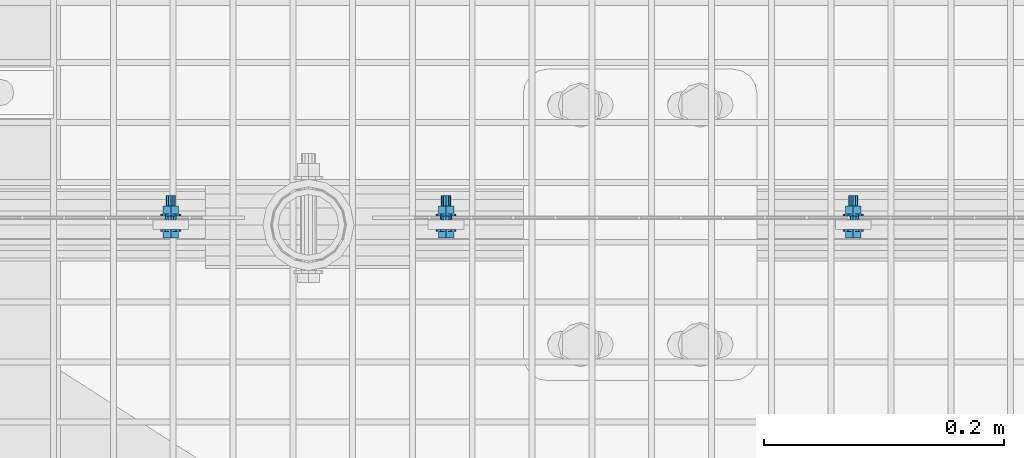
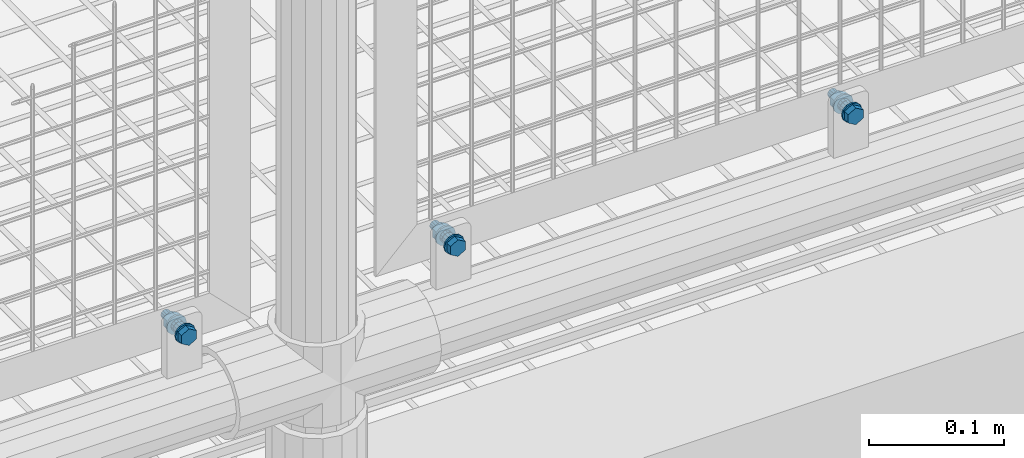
# One storey, part 92 of 1530: 3 mechanical fasteners.
"""IFC2X3 building model written with IfcOpenShell, lengths in millimetres."""

import ifcopenshell
import ifcopenshell.guid

model = None  # the IFC model being written
_history = None  # IfcOwnerHistory: only IFC2X3 demands one
_inside = {}  # id of a spatial element -> (the spatial element, [elements in it])
_under = {}  # id of a project, library or spatial element -> (it, [spatial elements below it])
_declared = {}  # id of a project -> (the project, [libraries it declares])
_typed = {}  # id of a type object -> (the type object, [elements of that type])
_made_of = {}  # id of a material, layer set ... -> (it, [elements and type objects made of it])


def new_model(schema):
    """Start an empty IFC model of exactly this schema.

    Asked for "IFC4X3", IfcOpenShell would pick the latest addendum, in which some entities
    have other attributes; the version numbers below select the first issue.
    IFC2X3 requires an IfcOwnerHistory on every rooted entity: one is made here for all.
    """
    global model, _history
    if schema == "IFC4X3":
        model = ifcopenshell.file(schema_version=(4, 3, 0, 0))
    else:
        model = ifcopenshell.file(schema=schema)
    _inside.clear()
    _under.clear()
    _declared.clear()
    _typed.clear()
    _made_of.clear()
    _history = None
    if model.schema == "IFC2X3":
        org = make("IfcOrganization", Name="unknown")
        user = make(
            "IfcPersonAndOrganization",
            ThePerson=make("IfcPerson", FamilyName="unknown"),
            TheOrganization=org,
        )
        app = make(
            "IfcApplication",
            ApplicationDeveloper=org,
            Version="unknown",
            ApplicationFullName="unknown",
            ApplicationIdentifier="unknown",
        )
        _history = make(
            "IfcOwnerHistory",
            OwningUser=user,
            OwningApplication=app,
            ChangeAction="ADDED",
            CreationDate=0,
        )
    return model


def make(cls, **values):
    """One entity of the class cls with the attributes given. An attribute that is None is left unset."""
    return model.create_entity(
        cls, **{name: value for name, value in values.items() if value is not None}
    )


def rooted(cls, **values):
    """An entity with a GlobalId (a new one), such as an element, a storey or a relation."""
    return make(cls, GlobalId=ifcopenshell.guid.new(), OwnerHistory=_history, **values)


def si_unit(unit_type, name, prefix=None):
    """IfcSIUnit, for example si_unit("LENGTHUNIT", "METRE", prefix="MILLI")."""
    return make("IfcSIUnit", UnitType=unit_type, Prefix=prefix, Name=name)


def assignment(units):
    """IfcUnitAssignment: the units of a project."""
    return None if units is None else make("IfcUnitAssignment", Units=units)


def point(xyz):
    """IfcCartesianPoint."""
    return None if xyz is None else make("IfcCartesianPoint", Coordinates=xyz)


def direction(xyz):
    """IfcDirection."""
    return None if xyz is None else make("IfcDirection", DirectionRatios=xyz)


def frame(location, z_axis=None, x_axis=None):
    """IfcAxis2Placement3D, a coordinate frame: its origin and axes. An axis left out is left unset."""
    return make(
        "IfcAxis2Placement3D",
        Location=point(location),
        Axis=direction(z_axis),
        RefDirection=direction(x_axis),
    )


def origin_with_axes():
    """The frame at (0, 0, 0) with the z axis (0, 0, 1) and the x axis (1, 0, 0) written out."""
    return frame((0.0, 0.0, 0.0), z_axis=(0.0, 0.0, 1.0), x_axis=(1.0, 0.0, 0.0))


def place(relative_to, where):
    """IfcLocalPlacement: puts the frame where relative to a parent placement (None: the world)."""
    return make(
        "IfcLocalPlacement", PlacementRelTo=relative_to, RelativePlacement=where
    )


def context(
    kind, dimensions, precision=None, world=None, true_north=None, identifier=None
):
    """IfcGeometricRepresentationContext, for example the 3D "Model" context."""
    return make(
        "IfcGeometricRepresentationContext",
        ContextIdentifier=identifier,
        ContextType=kind,
        CoordinateSpaceDimension=dimensions,
        Precision=precision,
        WorldCoordinateSystem=world,
        TrueNorth=true_north,
    )


def subcontext(parent, identifier, kind, view, scale=None):
    """IfcGeometricRepresentationSubContext, for example "Body" below "Model"."""
    return make(
        "IfcGeometricRepresentationSubContext",
        ContextIdentifier=identifier,
        ContextType=kind,
        ParentContext=parent,
        TargetScale=scale,
        TargetView=view,
    )


def project(units=None, contexts=None):
    """IfcProject with its units and contexts."""
    return rooted(
        "IfcProject",
        Name="project",
        RepresentationContexts=contexts,
        UnitsInContext=assignment(units),
    )


def spatial(cls, under=None, at=None, **own):
    """A site, building, storey or space (cls), placed at a placement, below another one or the project."""
    s = rooted(cls, ObjectPlacement=at, **own)
    if under is not None:
        _under.setdefault(under.id(), (under, []))[1].append(s)
    return s


def faces_of(points, faces, orient=None, outer=None):
    """IfcFace entities. A face is a list of loops; a loop is a list of indices into points, from 0.

    orient and outer hold one flag for each loop. By default every Orientation is true, the
    first loop of a face is its IfcFaceOuterBound and the others are IfcFaceBound.
    """
    made = []
    for i, loops in enumerate(faces):
        bounds = []
        for j, loop in enumerate(loops):
            is_outer = j == 0 if outer is None else outer[i][j]
            bounds.append(
                make(
                    "IfcFaceOuterBound" if is_outer else "IfcFaceBound",
                    Bound=make("IfcPolyLoop", Polygon=[points[k] for k in loop]),
                    Orientation=True if orient is None else orient[i][j],
                )
            )
        made.append(make("IfcFace", Bounds=bounds))
    return made


def faceted_brep(points, faces, orient=None, outer=None, voids=None):
    """IfcFacetedBrep: a solid bounded by flat faces; with voids (closed shells), ...WithVoids."""
    shared = [point(p) for p in points]
    hull = make("IfcClosedShell", CfsFaces=faces_of(shared, faces, orient, outer))
    if voids is None:
        return make("IfcFacetedBrep", Outer=hull)
    return make(
        "IfcFacetedBrepWithVoids",
        Outer=hull,
        Voids=[
            make(cls, CfsFaces=faces_of(shared, fs, o, b)) for cls, fs, o, b in voids
        ],
    )


def shape(context_of_items, identifier, shape_type, items):
    """IfcShapeRepresentation: the items that make up one representation, for example the "Body"."""
    return make(
        "IfcShapeRepresentation",
        ContextOfItems=context_of_items,
        RepresentationIdentifier=identifier,
        RepresentationType=shape_type,
        Items=items,
    )


def source(mapping_origin, context_of_items, identifier, shape_type, items):
    """IfcRepresentationMap: a shape defined once, which mapped items show again and again."""
    return make(
        "IfcRepresentationMap",
        MappingOrigin=mapping_origin,
        MappedRepresentation=shape(context_of_items, identifier, shape_type, items),
    )


def transform(
    local_origin,
    x_axis=None,
    y_axis=None,
    z_axis=None,
    scale=None,
    scale2=None,
    scale3=None,
    uniform=True,
):
    """IfcCartesianTransformationOperator3D, or its non-uniform kind. x_axis, y_axis, z_axis: its Axis1, 2, 3."""
    if uniform:
        return make(
            "IfcCartesianTransformationOperator3D",
            Axis1=direction(x_axis),
            Axis2=direction(y_axis),
            LocalOrigin=point(local_origin),
            Scale=scale,
            Axis3=direction(z_axis),
        )
    return make(
        "IfcCartesianTransformationOperator3DnonUniform",
        Axis1=direction(x_axis),
        Axis2=direction(y_axis),
        LocalOrigin=point(local_origin),
        Scale=scale,
        Axis3=direction(z_axis),
        Scale2=scale2,
        Scale3=scale3,
    )


def mapped(mapping_source, mapping_target):
    """IfcMappedItem: shows the shape of a source again, moved by a transform."""
    return make(
        "IfcMappedItem", MappingSource=mapping_source, MappingTarget=mapping_target
    )


def material(Name=None, Category=None):
    """IfcMaterial."""
    return make("IfcMaterial", Name=Name, Category=Category)


def made_of(thing, what):
    """Note that an element or type object is made of a material, layer set ...; save() writes the relation."""
    if what is not None:
        _made_of.setdefault(what.id(), (what, []))[1].append(thing)
    return thing


def type_object(cls, material=None, **own):
    """A type object (cls), such as IfcWallType, which elements share."""
    return made_of(rooted(cls, **own), material)


def element(
    cls,
    number,
    at=None,
    inside=None,
    cuts=None,
    type_object=None,
    material=None,
    context=None,
    identifier="Body",
    shape_type=None,
    held_by="IfcProductDefinitionShape",
    body=None,
    shapes=None,
    **own,
):
    """One element of the class cls, such as IfcWall. Its Tag is "e" and its number.

    at: its placement. inside: the storey or other place that contains it. cuts: it is an
    opening in that element (IfcRelVoidsElement). A single representation is given by context,
    identifier, shape_type and body (its items); several are given by shapes. held_by: the class
    of the entity that holds the representations. save() writes the other relations.
    """
    e = rooted(cls, Tag="e%d" % number, ObjectPlacement=at, **own)
    if body is not None:
        shapes = [shape(context, identifier, shape_type, body)]
    if shapes is not None:
        e.Representation = make(held_by, Representations=shapes)
    if inside is not None:
        _inside.setdefault(inside.id(), (inside, []))[1].append(e)
    if cuts is not None:
        rooted(
            "IfcRelVoidsElement", RelatingBuildingElement=cuts, RelatedOpeningElement=e
        )
    if type_object is not None:
        _typed.setdefault(type_object.id(), (type_object, []))[1].append(e)
    return made_of(e, material)


def aggregate(whole, parts):
    """IfcRelAggregates: a whole, such as a stair, and the parts it consists of."""
    return rooted("IfcRelAggregates", RelatingObject=whole, RelatedObjects=parts)


def save(model, path):
    """Write the relations noted so far, then the file.

    IfcRelAggregates (storeys below a building ...), IfcRelContainedInSpatialStructure (elements
    in a storey), IfcRelDefinesByType, IfcRelAssociatesMaterial and IfcRelDeclares: one each for
    every whole, place, type object, material and project.
    """
    for whole, parts in _under.values():
        aggregate(whole, parts)
    for where, things in _inside.values():
        rooted(
            "IfcRelContainedInSpatialStructure",
            RelatedElements=things,
            RelatingStructure=where,
        )
    for kind, things in _typed.values():
        rooted("IfcRelDefinesByType", RelatedObjects=things, RelatingType=kind)
    for what, things in _made_of.values():
        rooted("IfcRelAssociatesMaterial", RelatedObjects=things, RelatingMaterial=what)
    for by, libraries in _declared.values():
        rooted("IfcRelDeclares", RelatingContext=by, RelatedDefinitions=libraries)
    model.write(path)


model = new_model("IFC2X3")

# Units and contexts
model_context = context("Model", 3, precision=1e-05, world=origin_with_axes())
body_context = subcontext(model_context, "Body", "Model", "MODEL_VIEW")
ifc_project = project(units=[si_unit("LENGTHUNIT", "METRE", prefix="MILLI"), si_unit("AREAUNIT", "SQUARE_METRE"), si_unit("VOLUMEUNIT", "CUBIC_METRE"), si_unit("MASSUNIT", "GRAM", prefix="KILO"), si_unit("TIMEUNIT", "SECOND"), si_unit("PLANEANGLEUNIT", "RADIAN"), si_unit("SOLIDANGLEUNIT", "STERADIAN"), si_unit("THERMODYNAMICTEMPERATUREUNIT", "DEGREE_CELSIUS"), si_unit("LUMINOUSINTENSITYUNIT", "LUMEN")], contexts=[model_context])

# Site, building, storey
site_placement = place(None, origin_with_axes())
site = spatial("IfcSite", under=ifc_project, at=site_placement, Name="Brattvåg", CompositionType="ELEMENT")
building_placement = place(site_placement, origin_with_axes())
building = spatial("IfcBuilding", under=site, at=building_placement, Name="Undefined", CompositionType="ELEMENT")
storey_placement = place(building_placement, origin_with_axes())
storey = spatial("IfcBuildingStorey", under=building, at=storey_placement, Name="Undefined", CompositionType="ELEMENT", Elevation=0.0)

# Mechanical fasteners
ifc_material = material(Name="8")
mechanical_fastener_type = type_object("IfcMechanicalFastenerType", Name="Bolt assembly")
shared_shape_1 = source(origin_with_axes(), body_context, "Body", "Brep", [
    faceted_brep([(7.50555349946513, -6.899000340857, 0.0), (3.75277674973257, -6.899000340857, 6.5), (-3.75277674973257, -6.899000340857, 6.5), (-7.50555349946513, -6.899000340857, 9.19165206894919e-16), (-3.75277674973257, -6.899000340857, -6.5), (3.75277674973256, -6.899000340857, -6.5), (3.75277674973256, -1.59900015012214, -6.5), (-3.75277674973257, -1.59900015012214, -6.5), (-7.50555349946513, -1.59900015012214, 9.19165206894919e-16), (-3.75277674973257, -1.59900015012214, 6.5), (3.75277674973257, -1.59900015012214, 6.5), (7.50555349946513, -1.59900015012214, 0.0), (4.0, -1.59900015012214, 0.0), (3.46410161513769, -1.59900015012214, 2.00000000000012), (1.99999999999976, -1.59900015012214, 3.46410161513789), (-4.14534392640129e-13, -1.59900015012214, 4.0), (-2.00000000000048, -1.59900015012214, 3.46410161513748), (-3.4641016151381, -1.59900015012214, 1.9999999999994), (-4.0, -1.59900015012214, -8.29068785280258e-13), (-3.46410161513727, -1.59900015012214, -2.00000000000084), (-1.99999999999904, -1.59900015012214, -3.46410161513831), (1.23916228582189e-12, -1.59900015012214, -4.0), (2.00000000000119, -1.59900015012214, -3.46410161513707), (3.46410161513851, -1.59900015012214, -1.99999999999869), (3.46410161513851, 28.4009998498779, -1.99999999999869), (2.00000000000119, 28.4009998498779, -3.46410161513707), (1.23916228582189e-12, 28.4009998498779, -4.0), (-1.99999999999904, 28.4009998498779, -3.46410161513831), (-3.46410161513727, 28.4009998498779, -2.00000000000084), (-4.0, 28.4009998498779, -8.29068785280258e-13), (-3.4641016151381, 28.4009998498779, 1.9999999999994), (-2.00000000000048, 28.4009998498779, 3.46410161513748), (-4.14534392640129e-13, 28.4009998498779, 4.0), (1.99999999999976, 28.4009998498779, 3.46410161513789), (3.46410161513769, 28.4009998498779, 2.00000000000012), (4.0, 28.4009998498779, 0.0), (8.5, -1.59900015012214, 0.0), (7.36121593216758, -1.59900015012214, 4.25000000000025), (4.24999999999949, -1.59900015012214, 7.36121593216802), (-8.80885584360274e-13, -1.59900015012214, 8.5), (-4.25000000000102, -1.59900015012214, 7.36121593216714), (-7.36121593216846, -1.59900015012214, 4.24999999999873), (-8.5, -1.59900015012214, -1.76177116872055e-12), (-7.3612159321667, -1.59900015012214, -4.25000000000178), (-4.24999999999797, -1.59900015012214, -7.3612159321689), (2.63321985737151e-12, -1.59900015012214, -8.5), (4.25000000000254, -1.59900015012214, -7.36121593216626), (7.36121593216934, -1.59900015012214, -4.24999999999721), (7.36121593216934, 0.000999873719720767, -4.24999999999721), (4.25000000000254, 0.000999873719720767, -7.36121593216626), (2.63321985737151e-12, 0.000999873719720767, -8.5), (-4.24999999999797, 0.000999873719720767, -7.3612159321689), (-7.3612159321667, 0.000999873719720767, -4.25000000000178), (-8.5, 0.000999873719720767, -1.76177116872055e-12), (-7.36121593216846, 0.000999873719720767, 4.24999999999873), (-4.25000000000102, 0.000999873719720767, 7.36121593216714), (-8.80885584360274e-13, 0.000999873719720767, 8.5), (4.24999999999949, 0.000999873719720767, 7.36121593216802), (7.36121593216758, 0.000999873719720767, 4.25000000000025), (8.5, 0.000999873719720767, 0.0), (8.5, 11.5044159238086, 0.0), (7.36121593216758, 11.5044159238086, 4.25000000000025), (4.24999999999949, 11.5044159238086, 7.36121593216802), (-8.80885584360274e-13, 11.5044159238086, 8.5), (-4.25000000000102, 11.5044159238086, 7.36121593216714), (-7.36121593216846, 11.5044159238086, 4.24999999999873), (-8.5, 11.5044159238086, -1.76177116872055e-12), (-7.3612159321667, 11.5044159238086, -4.25000000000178), (-4.24999999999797, 11.5044159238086, -7.3612159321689), (2.63321985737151e-12, 11.5044159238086, -8.5), (4.25000000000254, 11.5044159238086, -7.36121593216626), (7.36121593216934, 11.5044159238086, -4.24999999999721), (7.36121593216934, 13.1044159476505, -4.24999999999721), (4.25000000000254, 13.1044159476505, -7.36121593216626), (2.63321985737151e-12, 13.1044159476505, -8.5), (-4.24999999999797, 13.1044159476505, -7.3612159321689), (-7.3612159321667, 13.1044159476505, -4.25000000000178), (-8.5, 13.1044159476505, -1.76177116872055e-12), (-7.36121593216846, 13.1044159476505, 4.24999999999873), (-4.25000000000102, 13.1044159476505, 7.36121593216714), (-8.80885584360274e-13, 13.1044159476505, 8.5), (4.24999999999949, 13.1044159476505, 7.36121593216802), (7.36121593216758, 13.1044159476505, 4.25000000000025), (8.5, 13.1044159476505, 0.0), (7.50555349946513, 13.1044159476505, 0.0), (3.75277674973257, 13.1044159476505, 6.5), (-3.75277674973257, 13.1044159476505, 6.5), (-7.50555349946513, 13.1044159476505, 9.19165206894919e-16), (-3.75277674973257, 13.1044159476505, -6.5), (3.75277674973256, 13.1044159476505, -6.5), (3.75277674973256, 19.9044161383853, -6.5), (-3.75277674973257, 19.9044161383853, -6.5), (-7.50555349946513, 19.9044161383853, 9.19165206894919e-16), (-3.75277674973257, 19.9044161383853, 6.5), (3.75277674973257, 19.9044161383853, 6.5), (7.50555349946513, 19.9044161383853, 0.0)], [[[0, 1, 2, 3, 4, 5]], [[6, 7, 8, 9, 10, 11]], [[0, 11, 10, 1]], [[1, 10, 9, 2]], [[2, 9, 8, 3]], [[3, 8, 7, 4]], [[4, 7, 6, 5]], [[5, 6, 11, 0]], [[12, 13, 14, 15, 16, 17, 18, 19, 20, 21, 22, 23]], [[24, 25, 26, 27, 28, 29, 30, 31, 32, 33, 34, 35]], [[12, 35, 34, 13]], [[13, 34, 33, 14]], [[14, 33, 32, 15]], [[15, 32, 31, 16]], [[16, 31, 30, 17]], [[17, 30, 29, 18]], [[18, 29, 28, 19]], [[19, 28, 27, 20]], [[20, 27, 26, 21]], [[21, 26, 25, 22]], [[22, 25, 24, 23]], [[23, 24, 35, 12]], [[36, 37, 38, 39, 40, 41, 42, 43, 44, 45, 46, 47]], [[48, 49, 50, 51, 52, 53, 54, 55, 56, 57, 58, 59]], [[36, 59, 58, 37]], [[37, 58, 57, 38]], [[38, 57, 56, 39]], [[39, 56, 55, 40]], [[40, 55, 54, 41]], [[41, 54, 53, 42]], [[42, 53, 52, 43]], [[43, 52, 51, 44]], [[44, 51, 50, 45]], [[45, 50, 49, 46]], [[46, 49, 48, 47]], [[47, 48, 59, 36]], [[60, 61, 62, 63, 64, 65, 66, 67, 68, 69, 70, 71]], [[72, 73, 74, 75, 76, 77, 78, 79, 80, 81, 82, 83]], [[60, 83, 82, 61]], [[61, 82, 81, 62]], [[62, 81, 80, 63]], [[63, 80, 79, 64]], [[64, 79, 78, 65]], [[65, 78, 77, 66]], [[66, 77, 76, 67]], [[67, 76, 75, 68]], [[68, 75, 74, 69]], [[69, 74, 73, 70]], [[70, 73, 72, 71]], [[71, 72, 83, 60]], [[84, 85, 86, 87, 88, 89]], [[90, 91, 92, 93, 94, 95]], [[84, 95, 94, 85]], [[85, 94, 93, 86]], [[86, 93, 92, 87]], [[87, 92, 91, 88]], [[88, 91, 90, 89]], [[89, 90, 95, 84]]]),
    faceted_brep([(5.0, 0.100999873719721, 0.0), (4.33012701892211, 0.100999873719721, 2.50000000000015), (2.4999999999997, 0.100999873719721, 4.33012701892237), (-5.18167990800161e-13, 0.100999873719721, 5.0), (-2.5000000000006, 0.100999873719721, 4.33012701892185), (-4.33012701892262, 0.100999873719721, 2.49999999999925), (-5.0, 0.100999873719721, -1.03633598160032e-12), (-4.33012701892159, 0.100999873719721, -2.50000000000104), (-2.49999999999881, 0.100999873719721, -4.33012701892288), (1.54895285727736e-12, 0.100999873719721, -5.0), (2.50000000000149, 0.100999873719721, -4.33012701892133), (4.33012701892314, 0.100999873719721, -2.49999999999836), (4.33012701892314, 8.10099988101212, -2.49999999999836), (2.50000000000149, 8.10099988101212, -4.33012701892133), (1.54895285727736e-12, 8.10099988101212, -5.0), (-2.49999999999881, 8.10099988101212, -4.33012701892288), (-4.33012701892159, 8.10099988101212, -2.50000000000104), (-5.0, 8.10099988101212, -1.03633598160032e-12), (-4.33012701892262, 8.10099988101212, 2.49999999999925), (-2.5000000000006, 8.10099988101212, 4.33012701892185), (-5.18167990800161e-13, 8.10099988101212, 5.0), (2.4999999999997, 8.10099988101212, 4.33012701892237), (4.33012701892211, 8.10099988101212, 2.50000000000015), (5.0, 8.10099988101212, 0.0), (5.0, 8.40441592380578, 0.0), (4.33012701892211, 8.40441592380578, 2.50000000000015), (2.4999999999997, 8.40441592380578, 4.33012701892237), (-5.18167990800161e-13, 8.40441592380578, 5.0), (-2.5000000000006, 8.40441592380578, 4.33012701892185), (-4.33012701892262, 8.40441592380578, 2.49999999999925), (-5.0, 8.40441592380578, -1.03633598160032e-12), (-4.33012701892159, 8.40441592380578, -2.50000000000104), (-2.49999999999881, 8.40441592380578, -4.33012701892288), (1.54895285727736e-12, 8.40441592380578, -5.0), (2.50000000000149, 8.40441592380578, -4.33012701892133), (4.33012701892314, 8.40441592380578, -2.49999999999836), (4.33012701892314, 11.5044159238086, -2.49999999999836), (2.50000000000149, 11.5044159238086, -4.33012701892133), (1.54895285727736e-12, 11.5044159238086, -5.0), (-2.49999999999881, 11.5044159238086, -4.33012701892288), (-4.33012701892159, 11.5044159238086, -2.50000000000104), (-5.0, 11.5044159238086, -1.03633598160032e-12), (-4.33012701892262, 11.5044159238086, 2.49999999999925), (-2.5000000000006, 11.5044159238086, 4.33012701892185), (-5.18167990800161e-13, 11.5044159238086, 5.0), (2.4999999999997, 11.5044159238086, 4.33012701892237), (4.33012701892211, 11.5044159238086, 2.50000000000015), (5.0, 11.5044159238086, 0.0)], [[[0, 1, 2, 3, 4, 5, 6, 7, 8, 9, 10, 11]], [[12, 13, 14, 15, 16, 17, 18, 19, 20, 21, 22, 23]], [[0, 23, 22, 1]], [[1, 22, 21, 2]], [[2, 21, 20, 3]], [[3, 20, 19, 4]], [[4, 19, 18, 5]], [[5, 18, 17, 6]], [[6, 17, 16, 7]], [[7, 16, 15, 8]], [[8, 15, 14, 9]], [[9, 14, 13, 10]], [[10, 13, 12, 11]], [[11, 12, 23, 0]], [[24, 25, 26, 27, 28, 29, 30, 31, 32, 33, 34, 35]], [[36, 37, 38, 39, 40, 41, 42, 43, 44, 45, 46, 47]], [[24, 47, 46, 25]], [[25, 46, 45, 26]], [[26, 45, 44, 27]], [[27, 44, 43, 28]], [[28, 43, 42, 29]], [[29, 42, 41, 30]], [[30, 41, 40, 31]], [[31, 40, 39, 32]], [[32, 39, 38, 33]], [[33, 38, 37, 34]], [[34, 37, 36, 35]], [[35, 36, 47, 24]]]),
])
mechanical_fastener_1_placement = place(storey_placement, frame((10335.8506088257, 7660.49843978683, 352.299672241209), z_axis=(-1.0, 1.99999855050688e-09, 0.0), x_axis=(0.0, 0.0, 1.0)))
element("IfcMechanicalFastener", 1, at=mechanical_fastener_1_placement, inside=storey, type_object=mechanical_fastener_type, material=ifc_material, Name="Bolt assembly", NominalDiameter=8.0, NominalLength=30.0, context=body_context, shape_type="MappedRepresentation", body=[
    mapped(shared_shape_1, transform((0.0, 0.0, 0.0))),
])
shared_shape_2 = source(origin_with_axes(), body_context, "Body", "Brep", [
    faceted_brep([(7.50555349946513, -6.899000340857, 0.0), (3.75277674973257, -6.899000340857, 6.5), (-3.75277674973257, -6.899000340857, 6.5), (-7.50555349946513, -6.899000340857, 9.19165206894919e-16), (-3.75277674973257, -6.899000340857, -6.5), (3.75277674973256, -6.899000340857, -6.5), (3.75277674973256, -1.59900015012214, -6.5), (-3.75277674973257, -1.59900015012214, -6.5), (-7.50555349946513, -1.59900015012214, 9.19165206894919e-16), (-3.75277674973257, -1.59900015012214, 6.5), (3.75277674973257, -1.59900015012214, 6.5), (7.50555349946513, -1.59900015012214, 0.0), (4.0, -1.59900015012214, 0.0), (3.46410161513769, -1.59900015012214, 2.00000000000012), (1.99999999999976, -1.59900015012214, 3.46410161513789), (-4.14534392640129e-13, -1.59900015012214, 4.0), (-2.00000000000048, -1.59900015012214, 3.46410161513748), (-3.4641016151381, -1.59900015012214, 1.9999999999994), (-4.0, -1.59900015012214, -8.29068785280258e-13), (-3.46410161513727, -1.59900015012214, -2.00000000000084), (-1.99999999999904, -1.59900015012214, -3.46410161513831), (1.23916228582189e-12, -1.59900015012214, -4.0), (2.00000000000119, -1.59900015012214, -3.46410161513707), (3.46410161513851, -1.59900015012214, -1.99999999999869), (3.46410161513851, 28.4009998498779, -1.99999999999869), (2.00000000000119, 28.4009998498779, -3.46410161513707), (1.23916228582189e-12, 28.4009998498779, -4.0), (-1.99999999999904, 28.4009998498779, -3.46410161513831), (-3.46410161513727, 28.4009998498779, -2.00000000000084), (-4.0, 28.4009998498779, -8.29068785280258e-13), (-3.4641016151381, 28.4009998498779, 1.9999999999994), (-2.00000000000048, 28.4009998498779, 3.46410161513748), (-4.14534392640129e-13, 28.4009998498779, 4.0), (1.99999999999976, 28.4009998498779, 3.46410161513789), (3.46410161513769, 28.4009998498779, 2.00000000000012), (4.0, 28.4009998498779, 0.0), (8.5, -1.59900015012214, 0.0), (7.36121593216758, -1.59900015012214, 4.25000000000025), (4.24999999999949, -1.59900015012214, 7.36121593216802), (-8.80885584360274e-13, -1.59900015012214, 8.5), (-4.25000000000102, -1.59900015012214, 7.36121593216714), (-7.36121593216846, -1.59900015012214, 4.24999999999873), (-8.5, -1.59900015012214, -1.76177116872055e-12), (-7.3612159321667, -1.59900015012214, -4.25000000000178), (-4.24999999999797, -1.59900015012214, -7.3612159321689), (2.63321985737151e-12, -1.59900015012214, -8.5), (4.25000000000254, -1.59900015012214, -7.36121593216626), (7.36121593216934, -1.59900015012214, -4.24999999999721), (7.36121593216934, 0.000999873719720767, -4.24999999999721), (4.25000000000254, 0.000999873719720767, -7.36121593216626), (2.63321985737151e-12, 0.000999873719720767, -8.5), (-4.24999999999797, 0.000999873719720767, -7.3612159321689), (-7.3612159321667, 0.000999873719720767, -4.25000000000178), (-8.5, 0.000999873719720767, -1.76177116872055e-12), (-7.36121593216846, 0.000999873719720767, 4.24999999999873), (-4.25000000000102, 0.000999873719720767, 7.36121593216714), (-8.80885584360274e-13, 0.000999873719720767, 8.5), (4.24999999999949, 0.000999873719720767, 7.36121593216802), (7.36121593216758, 0.000999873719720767, 4.25000000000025), (8.5, 0.000999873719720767, 0.0), (8.5, 11.5039814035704, 0.0), (7.36121593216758, 11.5039814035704, 4.25000000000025), (4.24999999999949, 11.5039814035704, 7.36121593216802), (-8.80885584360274e-13, 11.5039814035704, 8.5), (-4.25000000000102, 11.5039814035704, 7.36121593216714), (-7.36121593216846, 11.5039814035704, 4.24999999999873), (-8.5, 11.5039814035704, -1.76177116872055e-12), (-7.3612159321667, 11.5039814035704, -4.25000000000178), (-4.24999999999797, 11.5039814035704, -7.3612159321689), (2.63321985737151e-12, 11.5039814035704, -8.5), (4.25000000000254, 11.5039814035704, -7.36121593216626), (7.36121593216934, 11.5039814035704, -4.24999999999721), (7.36121593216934, 13.1039814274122, -4.24999999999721), (4.25000000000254, 13.1039814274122, -7.36121593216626), (2.63321985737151e-12, 13.1039814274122, -8.5), (-4.24999999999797, 13.1039814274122, -7.3612159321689), (-7.3612159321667, 13.1039814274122, -4.25000000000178), (-8.5, 13.1039814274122, -1.76177116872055e-12), (-7.36121593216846, 13.1039814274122, 4.24999999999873), (-4.25000000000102, 13.1039814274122, 7.36121593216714), (-8.80885584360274e-13, 13.1039814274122, 8.5), (4.24999999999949, 13.1039814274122, 7.36121593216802), (7.36121593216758, 13.1039814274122, 4.25000000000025), (8.5, 13.1039814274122, 0.0), (7.50555349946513, 13.1039814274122, 0.0), (3.75277674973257, 13.1039814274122, 6.5), (-3.75277674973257, 13.1039814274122, 6.5), (-7.50555349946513, 13.1039814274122, 9.19165206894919e-16), (-3.75277674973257, 13.1039814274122, -6.5), (3.75277674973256, 13.1039814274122, -6.5), (3.75277674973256, 19.9039816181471, -6.5), (-3.75277674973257, 19.9039816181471, -6.5), (-7.50555349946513, 19.9039816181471, 9.19165206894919e-16), (-3.75277674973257, 19.9039816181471, 6.5), (3.75277674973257, 19.9039816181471, 6.5), (7.50555349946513, 19.9039816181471, 0.0)], [[[0, 1, 2, 3, 4, 5]], [[6, 7, 8, 9, 10, 11]], [[0, 11, 10, 1]], [[1, 10, 9, 2]], [[2, 9, 8, 3]], [[3, 8, 7, 4]], [[4, 7, 6, 5]], [[5, 6, 11, 0]], [[12, 13, 14, 15, 16, 17, 18, 19, 20, 21, 22, 23]], [[24, 25, 26, 27, 28, 29, 30, 31, 32, 33, 34, 35]], [[12, 35, 34, 13]], [[13, 34, 33, 14]], [[14, 33, 32, 15]], [[15, 32, 31, 16]], [[16, 31, 30, 17]], [[17, 30, 29, 18]], [[18, 29, 28, 19]], [[19, 28, 27, 20]], [[20, 27, 26, 21]], [[21, 26, 25, 22]], [[22, 25, 24, 23]], [[23, 24, 35, 12]], [[36, 37, 38, 39, 40, 41, 42, 43, 44, 45, 46, 47]], [[48, 49, 50, 51, 52, 53, 54, 55, 56, 57, 58, 59]], [[36, 59, 58, 37]], [[37, 58, 57, 38]], [[38, 57, 56, 39]], [[39, 56, 55, 40]], [[40, 55, 54, 41]], [[41, 54, 53, 42]], [[42, 53, 52, 43]], [[43, 52, 51, 44]], [[44, 51, 50, 45]], [[45, 50, 49, 46]], [[46, 49, 48, 47]], [[47, 48, 59, 36]], [[60, 61, 62, 63, 64, 65, 66, 67, 68, 69, 70, 71]], [[72, 73, 74, 75, 76, 77, 78, 79, 80, 81, 82, 83]], [[60, 83, 82, 61]], [[61, 82, 81, 62]], [[62, 81, 80, 63]], [[63, 80, 79, 64]], [[64, 79, 78, 65]], [[65, 78, 77, 66]], [[66, 77, 76, 67]], [[67, 76, 75, 68]], [[68, 75, 74, 69]], [[69, 74, 73, 70]], [[70, 73, 72, 71]], [[71, 72, 83, 60]], [[84, 85, 86, 87, 88, 89]], [[90, 91, 92, 93, 94, 95]], [[84, 95, 94, 85]], [[85, 94, 93, 86]], [[86, 93, 92, 87]], [[87, 92, 91, 88]], [[88, 91, 90, 89]], [[89, 90, 95, 84]]]),
    faceted_brep([(5.0, 0.100999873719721, 0.0), (4.33012701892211, 0.100999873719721, 2.50000000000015), (2.4999999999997, 0.100999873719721, 4.33012701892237), (-5.18167990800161e-13, 0.100999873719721, 5.0), (-2.5000000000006, 0.100999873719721, 4.33012701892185), (-4.33012701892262, 0.100999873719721, 2.49999999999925), (-5.0, 0.100999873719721, -1.03633598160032e-12), (-4.33012701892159, 0.100999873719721, -2.50000000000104), (-2.49999999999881, 0.100999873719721, -4.33012701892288), (1.54895285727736e-12, 0.100999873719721, -5.0), (2.50000000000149, 0.100999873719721, -4.33012701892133), (4.33012701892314, 0.100999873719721, -2.49999999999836), (4.33012701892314, 8.10099988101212, -2.49999999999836), (2.50000000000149, 8.10099988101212, -4.33012701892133), (1.54895285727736e-12, 8.10099988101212, -5.0), (-2.49999999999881, 8.10099988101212, -4.33012701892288), (-4.33012701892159, 8.10099988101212, -2.50000000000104), (-5.0, 8.10099988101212, -1.03633598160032e-12), (-4.33012701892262, 8.10099988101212, 2.49999999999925), (-2.5000000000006, 8.10099988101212, 4.33012701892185), (-5.18167990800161e-13, 8.10099988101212, 5.0), (2.4999999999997, 8.10099988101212, 4.33012701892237), (4.33012701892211, 8.10099988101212, 2.50000000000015), (5.0, 8.10099988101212, 0.0), (5.0, 8.40398140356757, 0.0), (4.33012701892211, 8.40398140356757, 2.50000000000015), (2.4999999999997, 8.40398140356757, 4.33012701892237), (-5.18167990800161e-13, 8.40398140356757, 5.0), (-2.5000000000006, 8.40398140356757, 4.33012701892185), (-4.33012701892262, 8.40398140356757, 2.49999999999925), (-5.0, 8.40398140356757, -1.03633598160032e-12), (-4.33012701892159, 8.40398140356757, -2.50000000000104), (-2.49999999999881, 8.40398140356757, -4.33012701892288), (1.54895285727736e-12, 8.40398140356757, -5.0), (2.50000000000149, 8.40398140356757, -4.33012701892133), (4.33012701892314, 8.40398140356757, -2.49999999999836), (4.33012701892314, 11.5039814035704, -2.49999999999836), (2.50000000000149, 11.5039814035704, -4.33012701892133), (1.54895285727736e-12, 11.5039814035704, -5.0), (-2.49999999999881, 11.5039814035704, -4.33012701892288), (-4.33012701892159, 11.5039814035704, -2.50000000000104), (-5.0, 11.5039814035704, -1.03633598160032e-12), (-4.33012701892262, 11.5039814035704, 2.49999999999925), (-2.5000000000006, 11.5039814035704, 4.33012701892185), (-5.18167990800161e-13, 11.5039814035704, 5.0), (2.4999999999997, 11.5039814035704, 4.33012701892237), (4.33012701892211, 11.5039814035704, 2.50000000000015), (5.0, 11.5039814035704, 0.0)], [[[0, 1, 2, 3, 4, 5, 6, 7, 8, 9, 10, 11]], [[12, 13, 14, 15, 16, 17, 18, 19, 20, 21, 22, 23]], [[0, 23, 22, 1]], [[1, 22, 21, 2]], [[2, 21, 20, 3]], [[3, 20, 19, 4]], [[4, 19, 18, 5]], [[5, 18, 17, 6]], [[6, 17, 16, 7]], [[7, 16, 15, 8]], [[8, 15, 14, 9]], [[9, 14, 13, 10]], [[10, 13, 12, 11]], [[11, 12, 23, 0]], [[24, 25, 26, 27, 28, 29, 30, 31, 32, 33, 34, 35]], [[36, 37, 38, 39, 40, 41, 42, 43, 44, 45, 46, 47]], [[24, 47, 46, 25]], [[25, 46, 45, 26]], [[26, 45, 44, 27]], [[27, 44, 43, 28]], [[28, 43, 42, 29]], [[29, 42, 41, 30]], [[30, 41, 40, 31]], [[31, 40, 39, 32]], [[32, 39, 38, 33]], [[33, 38, 37, 34]], [[34, 37, 36, 35]], [[35, 36, 47, 24]]]),
])
mechanical_fastener_2_placement = place(storey_placement, frame((10675.8507614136, 7660.49843978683, 352.299672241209), z_axis=(-1.0, 1.99999855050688e-09, 0.0), x_axis=(0.0, 0.0, 1.0)))
element("IfcMechanicalFastener", 2, at=mechanical_fastener_2_placement, inside=storey, type_object=mechanical_fastener_type, material=ifc_material, Name="Bolt assembly", NominalDiameter=8.0, NominalLength=30.0, context=body_context, shape_type="MappedRepresentation", body=[
    mapped(shared_shape_2, transform((0.0, 0.0, 0.0))),
])
shared_shape_3 = source(origin_with_axes(), body_context, "Body", "Brep", [
    faceted_brep([(7.50555349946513, -6.899000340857, 0.0), (3.75277674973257, -6.899000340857, 6.5), (-3.75277674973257, -6.899000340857, 6.5), (-7.50555349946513, -6.899000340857, 9.19165206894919e-16), (-3.75277674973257, -6.899000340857, -6.5), (3.75277674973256, -6.899000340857, -6.5), (3.75277674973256, -1.59900015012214, -6.5), (-3.75277674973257, -1.59900015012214, -6.5), (-7.50555349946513, -1.59900015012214, 9.19165206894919e-16), (-3.75277674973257, -1.59900015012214, 6.5), (3.75277674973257, -1.59900015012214, 6.5), (7.50555349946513, -1.59900015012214, 0.0), (4.0, -1.59900015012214, 0.0), (3.46410161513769, -1.59900015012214, 2.00000000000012), (1.99999999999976, -1.59900015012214, 3.46410161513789), (-4.14534392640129e-13, -1.59900015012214, 4.0), (-2.00000000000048, -1.59900015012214, 3.46410161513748), (-3.4641016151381, -1.59900015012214, 1.9999999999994), (-4.0, -1.59900015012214, -8.29068785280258e-13), (-3.46410161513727, -1.59900015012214, -2.00000000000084), (-1.99999999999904, -1.59900015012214, -3.46410161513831), (1.23916228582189e-12, -1.59900015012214, -4.0), (2.00000000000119, -1.59900015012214, -3.46410161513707), (3.46410161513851, -1.59900015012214, -1.99999999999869), (3.46410161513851, 28.4009998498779, -1.99999999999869), (2.00000000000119, 28.4009998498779, -3.46410161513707), (1.23916228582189e-12, 28.4009998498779, -4.0), (-1.99999999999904, 28.4009998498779, -3.46410161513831), (-3.46410161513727, 28.4009998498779, -2.00000000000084), (-4.0, 28.4009998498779, -8.29068785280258e-13), (-3.4641016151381, 28.4009998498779, 1.9999999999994), (-2.00000000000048, 28.4009998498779, 3.46410161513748), (-4.14534392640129e-13, 28.4009998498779, 4.0), (1.99999999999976, 28.4009998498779, 3.46410161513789), (3.46410161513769, 28.4009998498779, 2.00000000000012), (4.0, 28.4009998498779, 0.0), (8.5, -1.59900015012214, 0.0), (7.36121593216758, -1.59900015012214, 4.25000000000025), (4.24999999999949, -1.59900015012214, 7.36121593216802), (-8.80885584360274e-13, -1.59900015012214, 8.5), (-4.25000000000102, -1.59900015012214, 7.36121593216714), (-7.36121593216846, -1.59900015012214, 4.24999999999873), (-8.5, -1.59900015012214, -1.76177116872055e-12), (-7.3612159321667, -1.59900015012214, -4.25000000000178), (-4.24999999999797, -1.59900015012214, -7.3612159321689), (2.63321985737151e-12, -1.59900015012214, -8.5), (4.25000000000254, -1.59900015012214, -7.36121593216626), (7.36121593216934, -1.59900015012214, -4.24999999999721), (7.36121593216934, 0.000999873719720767, -4.24999999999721), (4.25000000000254, 0.000999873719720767, -7.36121593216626), (2.63321985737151e-12, 0.000999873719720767, -8.5), (-4.24999999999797, 0.000999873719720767, -7.3612159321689), (-7.3612159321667, 0.000999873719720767, -4.25000000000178), (-8.5, 0.000999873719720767, -1.76177116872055e-12), (-7.36121593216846, 0.000999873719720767, 4.24999999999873), (-4.25000000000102, 0.000999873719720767, 7.36121593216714), (-8.80885584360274e-13, 0.000999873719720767, 8.5), (4.24999999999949, 0.000999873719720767, 7.36121593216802), (7.36121593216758, 0.000999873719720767, 4.25000000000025), (8.5, 0.000999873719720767, 0.0), (8.5, 11.5022147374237, 0.0), (7.36121593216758, 11.5022147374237, 4.25000000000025), (4.24999999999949, 11.5022147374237, 7.36121593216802), (-8.80885584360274e-13, 11.5022147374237, 8.5), (-4.25000000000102, 11.5022147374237, 7.36121593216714), (-7.36121593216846, 11.5022147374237, 4.24999999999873), (-8.5, 11.5022147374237, -1.76177116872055e-12), (-7.3612159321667, 11.5022147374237, -4.25000000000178), (-4.24999999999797, 11.5022147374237, -7.3612159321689), (2.63321985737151e-12, 11.5022147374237, -8.5), (4.25000000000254, 11.5022147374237, -7.36121593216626), (7.36121593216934, 11.5022147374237, -4.24999999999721), (7.36121593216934, 13.1022147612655, -4.24999999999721), (4.25000000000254, 13.1022147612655, -7.36121593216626), (2.63321985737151e-12, 13.1022147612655, -8.5), (-4.24999999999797, 13.1022147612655, -7.3612159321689), (-7.3612159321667, 13.1022147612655, -4.25000000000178), (-8.5, 13.1022147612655, -1.76177116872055e-12), (-7.36121593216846, 13.1022147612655, 4.24999999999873), (-4.25000000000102, 13.1022147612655, 7.36121593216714), (-8.80885584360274e-13, 13.1022147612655, 8.5), (4.24999999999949, 13.1022147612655, 7.36121593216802), (7.36121593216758, 13.1022147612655, 4.25000000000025), (8.5, 13.1022147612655, 0.0), (7.50555349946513, 13.1022147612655, 0.0), (3.75277674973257, 13.1022147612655, 6.5), (-3.75277674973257, 13.1022147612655, 6.5), (-7.50555349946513, 13.1022147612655, 9.19165206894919e-16), (-3.75277674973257, 13.1022147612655, -6.5), (3.75277674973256, 13.1022147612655, -6.5), (3.75277674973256, 19.9022149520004, -6.5), (-3.75277674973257, 19.9022149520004, -6.5), (-7.50555349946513, 19.9022149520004, 9.19165206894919e-16), (-3.75277674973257, 19.9022149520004, 6.5), (3.75277674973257, 19.9022149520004, 6.5), (7.50555349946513, 19.9022149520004, 0.0)], [[[0, 1, 2, 3, 4, 5]], [[6, 7, 8, 9, 10, 11]], [[0, 11, 10, 1]], [[1, 10, 9, 2]], [[2, 9, 8, 3]], [[3, 8, 7, 4]], [[4, 7, 6, 5]], [[5, 6, 11, 0]], [[12, 13, 14, 15, 16, 17, 18, 19, 20, 21, 22, 23]], [[24, 25, 26, 27, 28, 29, 30, 31, 32, 33, 34, 35]], [[12, 35, 34, 13]], [[13, 34, 33, 14]], [[14, 33, 32, 15]], [[15, 32, 31, 16]], [[16, 31, 30, 17]], [[17, 30, 29, 18]], [[18, 29, 28, 19]], [[19, 28, 27, 20]], [[20, 27, 26, 21]], [[21, 26, 25, 22]], [[22, 25, 24, 23]], [[23, 24, 35, 12]], [[36, 37, 38, 39, 40, 41, 42, 43, 44, 45, 46, 47]], [[48, 49, 50, 51, 52, 53, 54, 55, 56, 57, 58, 59]], [[36, 59, 58, 37]], [[37, 58, 57, 38]], [[38, 57, 56, 39]], [[39, 56, 55, 40]], [[40, 55, 54, 41]], [[41, 54, 53, 42]], [[42, 53, 52, 43]], [[43, 52, 51, 44]], [[44, 51, 50, 45]], [[45, 50, 49, 46]], [[46, 49, 48, 47]], [[47, 48, 59, 36]], [[60, 61, 62, 63, 64, 65, 66, 67, 68, 69, 70, 71]], [[72, 73, 74, 75, 76, 77, 78, 79, 80, 81, 82, 83]], [[60, 83, 82, 61]], [[61, 82, 81, 62]], [[62, 81, 80, 63]], [[63, 80, 79, 64]], [[64, 79, 78, 65]], [[65, 78, 77, 66]], [[66, 77, 76, 67]], [[67, 76, 75, 68]], [[68, 75, 74, 69]], [[69, 74, 73, 70]], [[70, 73, 72, 71]], [[71, 72, 83, 60]], [[84, 85, 86, 87, 88, 89]], [[90, 91, 92, 93, 94, 95]], [[84, 95, 94, 85]], [[85, 94, 93, 86]], [[86, 93, 92, 87]], [[87, 92, 91, 88]], [[88, 91, 90, 89]], [[89, 90, 95, 84]]]),
    faceted_brep([(5.0, 0.100999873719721, 0.0), (4.33012701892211, 0.100999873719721, 2.50000000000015), (2.4999999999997, 0.100999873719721, 4.33012701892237), (-5.18167990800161e-13, 0.100999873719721, 5.0), (-2.5000000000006, 0.100999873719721, 4.33012701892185), (-4.33012701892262, 0.100999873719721, 2.49999999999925), (-5.0, 0.100999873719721, -1.03633598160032e-12), (-4.33012701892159, 0.100999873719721, -2.50000000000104), (-2.49999999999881, 0.100999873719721, -4.33012701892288), (1.54895285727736e-12, 0.100999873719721, -5.0), (2.50000000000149, 0.100999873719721, -4.33012701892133), (4.33012701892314, 0.100999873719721, -2.49999999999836), (4.33012701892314, 8.10099988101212, -2.49999999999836), (2.50000000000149, 8.10099988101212, -4.33012701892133), (1.54895285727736e-12, 8.10099988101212, -5.0), (-2.49999999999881, 8.10099988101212, -4.33012701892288), (-4.33012701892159, 8.10099988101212, -2.50000000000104), (-5.0, 8.10099988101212, -1.03633598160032e-12), (-4.33012701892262, 8.10099988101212, 2.49999999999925), (-2.5000000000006, 8.10099988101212, 4.33012701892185), (-5.18167990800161e-13, 8.10099988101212, 5.0), (2.4999999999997, 8.10099988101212, 4.33012701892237), (4.33012701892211, 8.10099988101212, 2.50000000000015), (5.0, 8.10099988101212, 0.0), (5.0, 8.40221473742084, 0.0), (4.33012701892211, 8.40221473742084, 2.50000000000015), (2.4999999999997, 8.40221473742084, 4.33012701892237), (-5.18167990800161e-13, 8.40221473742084, 5.0), (-2.5000000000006, 8.40221473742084, 4.33012701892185), (-4.33012701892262, 8.40221473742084, 2.49999999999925), (-5.0, 8.40221473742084, -1.03633598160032e-12), (-4.33012701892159, 8.40221473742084, -2.50000000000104), (-2.49999999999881, 8.40221473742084, -4.33012701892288), (1.54895285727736e-12, 8.40221473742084, -5.0), (2.50000000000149, 8.40221473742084, -4.33012701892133), (4.33012701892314, 8.40221473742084, -2.49999999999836), (4.33012701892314, 11.5022147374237, -2.49999999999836), (2.50000000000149, 11.5022147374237, -4.33012701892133), (1.54895285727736e-12, 11.5022147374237, -5.0), (-2.49999999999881, 11.5022147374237, -4.33012701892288), (-4.33012701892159, 11.5022147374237, -2.50000000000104), (-5.0, 11.5022147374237, -1.03633598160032e-12), (-4.33012701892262, 11.5022147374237, 2.49999999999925), (-2.5000000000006, 11.5022147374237, 4.33012701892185), (-5.18167990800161e-13, 11.5022147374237, 5.0), (2.4999999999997, 11.5022147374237, 4.33012701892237), (4.33012701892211, 11.5022147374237, 2.50000000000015), (5.0, 11.5022147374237, 0.0)], [[[0, 1, 2, 3, 4, 5, 6, 7, 8, 9, 10, 11]], [[12, 13, 14, 15, 16, 17, 18, 19, 20, 21, 22, 23]], [[0, 23, 22, 1]], [[1, 22, 21, 2]], [[2, 21, 20, 3]], [[3, 20, 19, 4]], [[4, 19, 18, 5]], [[5, 18, 17, 6]], [[6, 17, 16, 7]], [[7, 16, 15, 8]], [[8, 15, 14, 9]], [[9, 14, 13, 10]], [[10, 13, 12, 11]], [[11, 12, 23, 0]], [[24, 25, 26, 27, 28, 29, 30, 31, 32, 33, 34, 35]], [[36, 37, 38, 39, 40, 41, 42, 43, 44, 45, 46, 47]], [[24, 47, 46, 25]], [[25, 46, 45, 26]], [[26, 45, 44, 27]], [[27, 44, 43, 28]], [[28, 43, 42, 29]], [[29, 42, 41, 30]], [[30, 41, 40, 31]], [[31, 40, 39, 32]], [[32, 39, 38, 33]], [[33, 38, 37, 34]], [[34, 37, 36, 35]], [[35, 36, 47, 24]]]),
])
mechanical_fastener_3_placement = place(storey_placement, frame((10105.99974823, 7660.49888992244, 352.300205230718), z_axis=(-1.0, 1.99999855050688e-09, 0.0), x_axis=(0.0, 0.0, 1.0)))
element("IfcMechanicalFastener", 3, at=mechanical_fastener_3_placement, inside=storey, type_object=mechanical_fastener_type, material=ifc_material, Name="Bolt assembly", NominalDiameter=8.0, NominalLength=30.0, context=body_context, shape_type="MappedRepresentation", body=[
    mapped(shared_shape_3, transform((0.0, 0.0, 0.0))),
])

save(model, "model.ifc")
